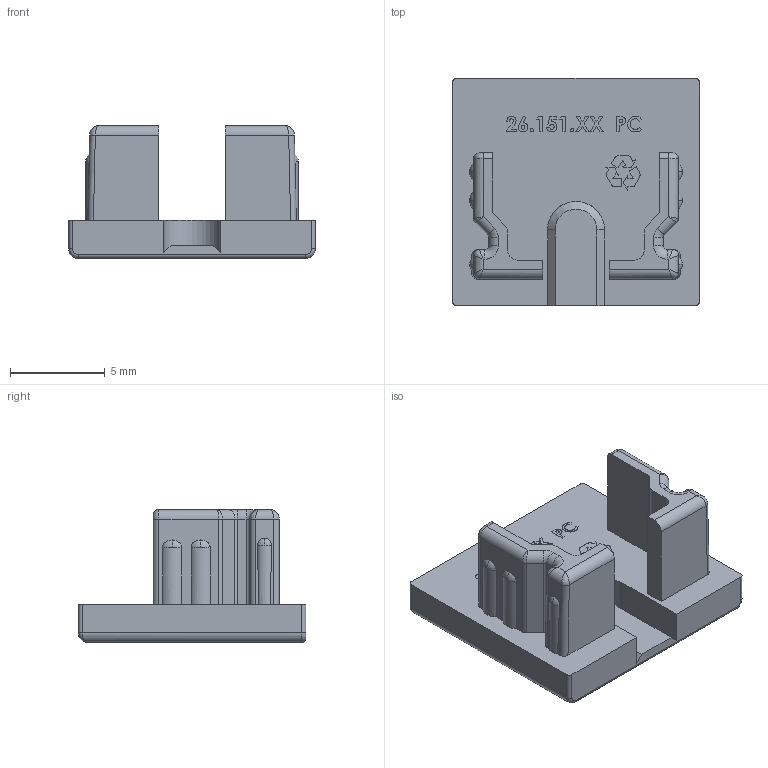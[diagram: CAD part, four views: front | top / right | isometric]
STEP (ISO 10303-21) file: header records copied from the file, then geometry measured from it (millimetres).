
FILE_DESCRIPTION (( 'STEP AP203' ), '1' );
FILE_NAME ('Endkappen_ChannelLine_U_24.STEP', '2024-11-29T09:12:09', ( '' ), ( '' ), 'SwSTEP 2.0', 'SolidWorks 2023', '' );
FILE_SCHEMA (( 'CONFIG_CONTROL_DESIGN' ));
Length unit declared in the file: millimetre
Products named in the file (1): Endkappen_ChannelLine_U_24
Bounding box: 13 x 12 x 7 mm (x, y, z)
Volume: 391.1 mm3; surface area: 624 mm2
Topology: 1 solids, 1 shells, 280 faces, 740 edges, 472 vertices
Faces by surface type: plane 149, bspline 56, cylinder 54, torus 16, sphere 4, cone 1
Entity records: 11024 total; most frequent: CARTESIAN_POINT 4389, ORIENTED_EDGE 1464, DIRECTION 1189, EDGE_CURVE 732, LINE 493, VECTOR 493, VERTEX_POINT 472, AXIS2_PLACEMENT_3D 348
